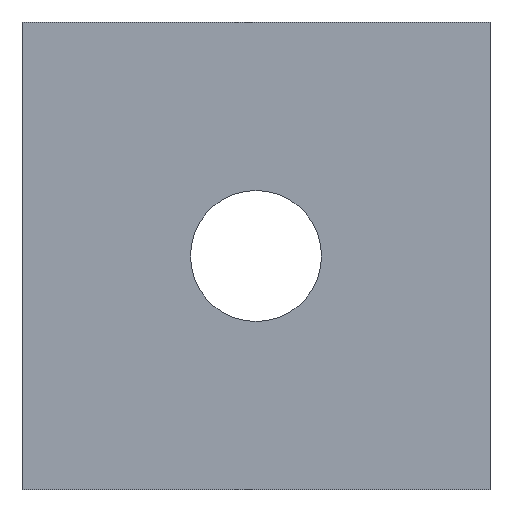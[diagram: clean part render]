
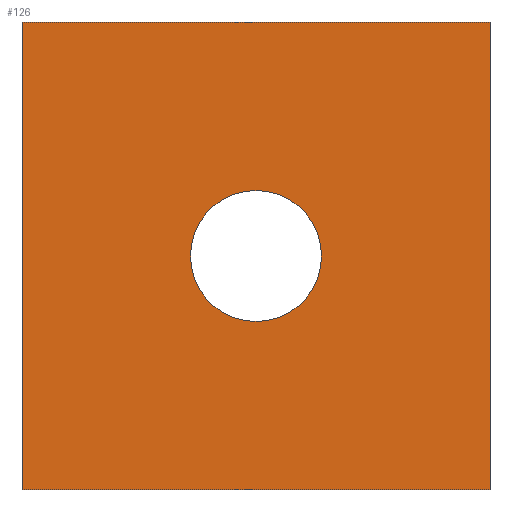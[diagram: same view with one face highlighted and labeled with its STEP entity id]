
A CAD part, front view. The second image highlights one B-rep face of the part: STEP entity #126.
In plain terms, the highlighted planar face has unit normal (0, -1, 0).
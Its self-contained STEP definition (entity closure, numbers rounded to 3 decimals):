
#6 = AXIS2_PLACEMENT_3D ( 'NONE', #114, #113, #112 ) ;
#30 = EDGE_CURVE ( 'NONE', #223, #212, #194, .T. ) ;
#31 = EDGE_CURVE ( 'NONE', #218, #213, #198, .T. ) ;
#40 = EDGE_CURVE ( 'NONE', #212, #223, #184, .T. ) ;
#41 = EDGE_CURVE ( 'NONE', #216, #215, #182, .T. ) ;
#42 = AXIS2_PLACEMENT_3D ( 'NONE', #310, #307, #306 ) ;
#51 = AXIS2_PLACEMENT_3D ( 'NONE', #94, #93, #92 ) ;
#52 = EDGE_CURVE ( 'NONE', #215, #213, #192, .T. ) ;
#53 = EDGE_CURVE ( 'NONE', #216, #218, #179, .T. ) ;
#64 = DIRECTION ( 'NONE',  ( 1., 0., 0. ) ) ;
#88 = DIRECTION ( 'NONE',  ( 0., 0., 1. ) ) ;
#90 = CARTESIAN_POINT ( 'NONE',  ( -15., -788.115, -2165.805 ) ) ;
#91 = DIRECTION ( 'NONE',  ( 0., 0., 1. ) ) ;
#92 = DIRECTION ( 'NONE',  ( 0., 0., 1. ) ) ;
#93 = DIRECTION ( 'NONE',  ( 0., 1., 0. ) ) ;
#94 = CARTESIAN_POINT ( 'NONE',  ( -7.5, -788.115, -2173.305 ) ) ;
#97 = CARTESIAN_POINT ( 'NONE',  ( 0., -788.115, -2165.805 ) ) ;
#108 = DIRECTION ( 'NONE',  ( 1., 0., 0. ) ) ;
#109 = CARTESIAN_POINT ( 'NONE',  ( -15., -788.115, -2180.805 ) ) ;
#112 = DIRECTION ( 'NONE',  ( 0., 0., 1. ) ) ;
#113 = DIRECTION ( 'NONE',  ( 0., 1., 0. ) ) ;
#114 = CARTESIAN_POINT ( 'NONE',  ( -7.5, -788.115, -2173.305 ) ) ;
#115 = CARTESIAN_POINT ( 'NONE',  ( -15., -788.115, -2165.805 ) ) ;
#126 = ADVANCED_FACE ( 'NONE', ( #171, #164 ), #309, .F. ) ;
#164 = FACE_OUTER_BOUND ( 'NONE', #246, .T. ) ;
#171 = FACE_BOUND ( 'NONE', #249, .T. ) ;
#176 = VECTOR ( 'NONE', #88, 1000. ) ;
#178 = VECTOR ( 'NONE', #91, 1000. ) ;
#179 = LINE ( 'NONE', #90, #176 ) ;
#180 = VECTOR ( 'NONE', #108, 1000. ) ;
#182 = LINE ( 'NONE', #109, #180 ) ;
#184 = CIRCLE ( 'NONE', #51, 2.1 ) ;
#190 = VECTOR ( 'NONE', #64, 1000. ) ;
#192 = LINE ( 'NONE', #97, #178 ) ;
#194 = CIRCLE ( 'NONE', #6, 2.1 ) ;
#198 = LINE ( 'NONE', #115, #190 ) ;
#212 = VERTEX_POINT ( 'NONE', #303 ) ;
#213 = VERTEX_POINT ( 'NONE', #289 ) ;
#215 = VERTEX_POINT ( 'NONE', #301 ) ;
#216 = VERTEX_POINT ( 'NONE', #305 ) ;
#218 = VERTEX_POINT ( 'NONE', #299 ) ;
#223 = VERTEX_POINT ( 'NONE', #296 ) ;
#246 = EDGE_LOOP ( 'NONE', ( #254, #253, #252, #251 ) ) ;
#249 = EDGE_LOOP ( 'NONE', ( #256, #255 ) ) ;
#251 = ORIENTED_EDGE ( 'NONE', *, *, #41, .T. ) ;
#252 = ORIENTED_EDGE ( 'NONE', *, *, #53, .F. ) ;
#253 = ORIENTED_EDGE ( 'NONE', *, *, #31, .F. ) ;
#254 = ORIENTED_EDGE ( 'NONE', *, *, #52, .T. ) ;
#255 = ORIENTED_EDGE ( 'NONE', *, *, #40, .T. ) ;
#256 = ORIENTED_EDGE ( 'NONE', *, *, #30, .T. ) ;
#289 = CARTESIAN_POINT ( 'NONE',  ( 0., -788.115, -2165.805 ) ) ;
#296 = CARTESIAN_POINT ( 'NONE',  ( -7.5, -788.115, -2171.205 ) ) ;
#299 = CARTESIAN_POINT ( 'NONE',  ( -15., -788.115, -2165.805 ) ) ;
#301 = CARTESIAN_POINT ( 'NONE',  ( 0., -788.115, -2180.805 ) ) ;
#303 = CARTESIAN_POINT ( 'NONE',  ( -7.5, -788.115, -2175.405 ) ) ;
#305 = CARTESIAN_POINT ( 'NONE',  ( -15., -788.115, -2180.805 ) ) ;
#306 = DIRECTION ( 'NONE',  ( 0., 0., 1. ) ) ;
#307 = DIRECTION ( 'NONE',  ( 0., 1., 0. ) ) ;
#309 = PLANE ( 'NONE',  #42 ) ;
#310 = CARTESIAN_POINT ( 'NONE',  ( -15., -788.115, -2165.805 ) ) ;
